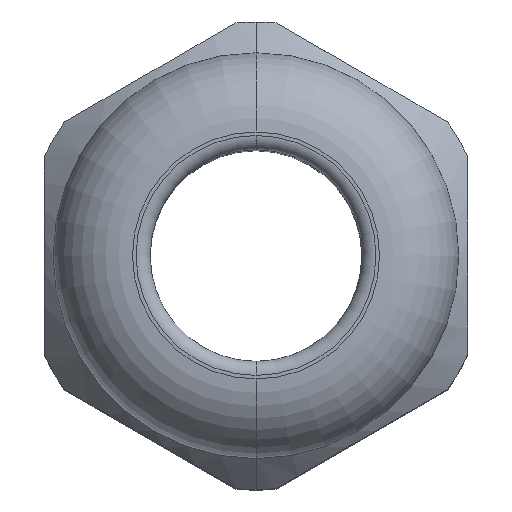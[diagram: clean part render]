
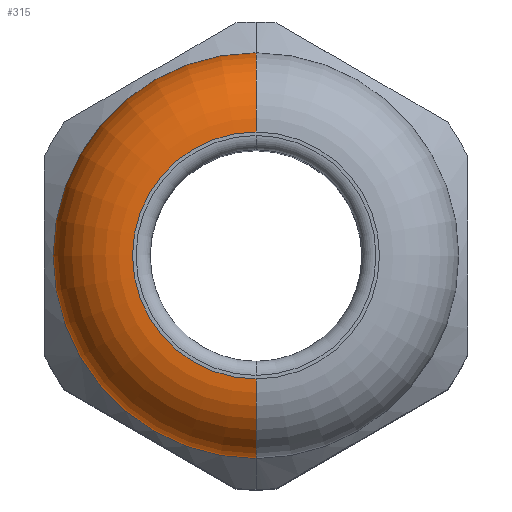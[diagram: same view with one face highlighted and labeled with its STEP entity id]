
A CAD part, top view. The second image highlights one B-rep face of the part: STEP entity #315.
In plain terms, the highlighted toroidal (fillet/blend) face has major radius 7 mm and minor radius 4.5 mm.
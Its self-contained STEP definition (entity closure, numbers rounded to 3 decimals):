
#88 = EDGE_CURVE ( 'NONE', #100, #102, #1039, .T. ) ;
#99 = VERTEX_POINT ( 'NONE', #1012 ) ;
#100 = VERTEX_POINT ( 'NONE', #1011 ) ;
#102 = VERTEX_POINT ( 'NONE', #1010 ) ;
#104 = EDGE_CURVE ( 'NONE', #99, #179, #1103, .T. ) ;
#179 = VERTEX_POINT ( 'NONE', #1364 ) ;
#194 = EDGE_LOOP ( 'NONE', ( #195, #196, #198, #199 ) ) ;
#195 = ORIENTED_EDGE ( 'NONE', *, *, #88, .F. ) ;
#196 = ORIENTED_EDGE ( 'NONE', *, *, #197, .T. ) ;
#197 = EDGE_CURVE ( 'NONE', #100, #99, #1337, .T. ) ;
#198 = ORIENTED_EDGE ( 'NONE', *, *, #104, .T. ) ;
#199 = ORIENTED_EDGE ( 'NONE', *, *, #312, .F. ) ;
#312 = EDGE_CURVE ( 'NONE', #102, #179, #1797, .T. ) ;
#315 = ADVANCED_FACE ( 'NONE', ( #1759 ), #1650, .T. ) ;
#1010 = CARTESIAN_POINT ( 'NONE',  ( 0., -11.5, 34.5 ) ) ;
#1011 = CARTESIAN_POINT ( 'NONE',  ( 0., -7., 39. ) ) ;
#1012 = CARTESIAN_POINT ( 'NONE',  ( 0., 7., 39. ) ) ;
#1035 = DIRECTION ( 'NONE',  ( 0., 1., 0. ) ) ;
#1036 = DIRECTION ( 'NONE',  ( 1., 0., 0. ) ) ;
#1037 = CARTESIAN_POINT ( 'NONE',  ( 0., -7., 34.5 ) ) ;
#1038 = AXIS2_PLACEMENT_3D ( 'NONE', #1037, #1036, #1035 ) ;
#1039 = CIRCLE ( 'NONE', #1038, 4.5 ) ;
#1099 = DIRECTION ( 'NONE',  ( 0., 0., 1. ) ) ;
#1100 = DIRECTION ( 'NONE',  ( -1., 0., 0. ) ) ;
#1101 = CARTESIAN_POINT ( 'NONE',  ( 0., 7., 34.5 ) ) ;
#1102 = AXIS2_PLACEMENT_3D ( 'NONE', #1101, #1100, #1099 ) ;
#1103 = CIRCLE ( 'NONE', #1102, 4.5 ) ;
#1333 = DIRECTION ( 'NONE',  ( 0., 1., 0. ) ) ;
#1334 = DIRECTION ( 'NONE',  ( 0., 0., -1. ) ) ;
#1335 = CARTESIAN_POINT ( 'NONE',  ( 0., 0., 39. ) ) ;
#1336 = AXIS2_PLACEMENT_3D ( 'NONE', #1335, #1334, #1333 ) ;
#1337 = CIRCLE ( 'NONE', #1336, 7. ) ;
#1364 = CARTESIAN_POINT ( 'NONE',  ( 0., 11.5, 34.5 ) ) ;
#1646 = CARTESIAN_POINT ( 'NONE',  ( 0., 0., 34.5 ) ) ;
#1647 = DIRECTION ( 'NONE',  ( 0., 1., 0. ) ) ;
#1650 = TOROIDAL_SURFACE ( 'NONE', #1723, 7., 4.5 ) ;
#1681 = CARTESIAN_POINT ( 'NONE',  ( 0., 0., 34.5 ) ) ;
#1696 = AXIS2_PLACEMENT_3D ( 'NONE', #1646, #1717, #1647 ) ;
#1717 = DIRECTION ( 'NONE',  ( 0., 0., -1. ) ) ;
#1723 = AXIS2_PLACEMENT_3D ( 'NONE', #1681, #1769, #1768 ) ;
#1759 = FACE_OUTER_BOUND ( 'NONE', #194, .T. ) ;
#1768 = DIRECTION ( 'NONE',  ( 0., 1., 0. ) ) ;
#1769 = DIRECTION ( 'NONE',  ( 0., 0., -1. ) ) ;
#1797 = CIRCLE ( 'NONE', #1696, 11.5 ) ;
